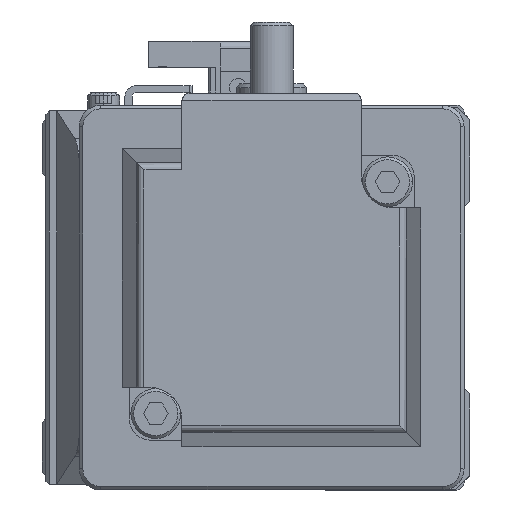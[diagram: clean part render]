
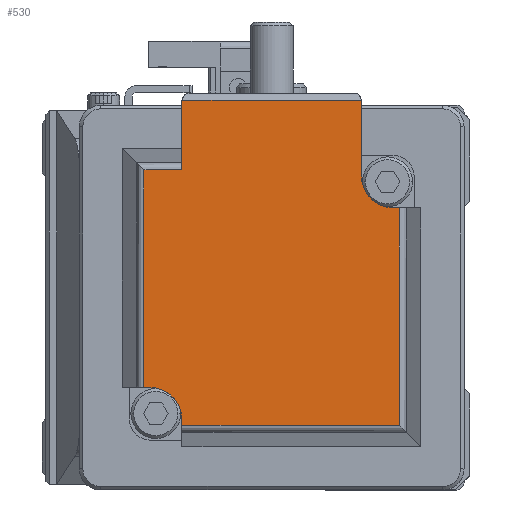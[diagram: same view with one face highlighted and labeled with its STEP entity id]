
A CAD part, left-side view. The second image highlights one B-rep face of the part: STEP entity #530.
In plain terms, the highlighted planar face has unit normal (-1, 0, 0) as drawn and (0, 1, 0) by its records, which use the part's own axes.
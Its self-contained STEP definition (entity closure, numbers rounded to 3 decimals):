
#20 = VECTOR ( 'NONE', #27901, 1000. ) ;
#530 = ADVANCED_FACE ( 'NONE', ( #7664 ), #28047, .F. ) ;
#793 = VERTEX_POINT ( 'NONE', #18563 ) ;
#1028 = VERTEX_POINT ( 'NONE', #17177 ) ;
#1162 = DIRECTION ( 'NONE',  ( 1., 0., 0. ) ) ;
#2157 = VECTOR ( 'NONE', #16192, 1000. ) ;
#2218 = VERTEX_POINT ( 'NONE', #26545 ) ;
#2480 = CARTESIAN_POINT ( 'NONE',  ( 17.929, 100.6, -12.6 ) ) ;
#2507 = EDGE_CURVE ( 'NONE', #1028, #15522, #8825, .T. ) ;
#2905 = VERTEX_POINT ( 'NONE', #10049 ) ;
#3003 = CARTESIAN_POINT ( 'NONE',  ( 12.6, 100.6, 25. ) ) ;
#3379 = ORIENTED_EDGE ( 'NONE', *, *, #11506, .F. ) ;
#3844 = CARTESIAN_POINT ( 'NONE',  ( -12.6, 100.6, -21. ) ) ;
#4163 = DIRECTION ( 'NONE',  ( 0., 1., 0. ) ) ;
#4998 = CARTESIAN_POINT ( 'NONE',  ( 27.7, 100.6, -12.6 ) ) ;
#6441 = LINE ( 'NONE', #14253, #20 ) ;
#6991 = AXIS2_PLACEMENT_3D ( 'NONE', #34294, #4163, #28910 ) ;
#7664 = FACE_OUTER_BOUND ( 'NONE', #12427, .T. ) ;
#8039 = VECTOR ( 'NONE', #32095, 1000. ) ;
#8825 = LINE ( 'NONE', #19212, #12719 ) ;
#9079 = DIRECTION ( 'NONE',  ( 0., 0., -1. ) ) ;
#9161 = ORIENTED_EDGE ( 'NONE', *, *, #21905, .F. ) ;
#9185 = CARTESIAN_POINT ( 'NONE',  ( 17.929, 100.6, 25. ) ) ;
#9370 = DIRECTION ( 'NONE',  ( 0., 0., 1. ) ) ;
#10049 = CARTESIAN_POINT ( 'NONE',  ( 12.6, 100.6, 17.1 ) ) ;
#10341 = DIRECTION ( 'NONE',  ( 1., 0., 0. ) ) ;
#10831 = CARTESIAN_POINT ( 'NONE',  ( -17.1, 100.6, -17.1 ) ) ;
#11506 = EDGE_CURVE ( 'NONE', #11993, #34310, #33896, .T. ) ;
#11629 = LINE ( 'NONE', #3844, #34335 ) ;
#11695 = ORIENTED_EDGE ( 'NONE', *, *, #32901, .F. ) ;
#11993 = VERTEX_POINT ( 'NONE', #4998 ) ;
#12427 = EDGE_LOOP ( 'NONE', ( #27410, #3379, #9161, #21349, #25086, #17284, #34416, #22413, #15417, #23145, #11695, #15529 ) ) ;
#12678 = VECTOR ( 'NONE', #1162, 1000. ) ;
#12719 = VECTOR ( 'NONE', #14090, 1000. ) ;
#13292 = CARTESIAN_POINT ( 'NONE',  ( 17.929, 100.6, -17.929 ) ) ;
#13701 = CARTESIAN_POINT ( 'NONE',  ( 27.7, 100.6, 12.6 ) ) ;
#14090 = DIRECTION ( 'NONE',  ( 0., 0., -1. ) ) ;
#14253 = CARTESIAN_POINT ( 'NONE',  ( 17.929, 100.6, 25. ) ) ;
#14281 = DIRECTION ( 'NONE',  ( 0., -1., 0. ) ) ;
#14304 = VECTOR ( 'NONE', #30158, 1000. ) ;
#14366 = VERTEX_POINT ( 'NONE', #22767 ) ;
#14423 = EDGE_CURVE ( 'NONE', #14366, #27064, #19950, .T. ) ;
#14713 = AXIS2_PLACEMENT_3D ( 'NONE', #10831, #21618, #27151 ) ;
#15222 = CARTESIAN_POINT ( 'NONE',  ( 17.929, 100.6, -17.929 ) ) ;
#15417 = ORIENTED_EDGE ( 'NONE', *, *, #2507, .F. ) ;
#15457 = CARTESIAN_POINT ( 'NONE',  ( 17.929, 100.6, -12.6 ) ) ;
#15522 = VERTEX_POINT ( 'NONE', #23724 ) ;
#15529 = ORIENTED_EDGE ( 'NONE', *, *, #27964, .F. ) ;
#15635 = DIRECTION ( 'NONE',  ( 0., 0., 1. ) ) ;
#16192 = DIRECTION ( 'NONE',  ( -1., 0., 0. ) ) ;
#16940 = VECTOR ( 'NONE', #30504, 1000. ) ;
#17141 = EDGE_CURVE ( 'NONE', #14366, #19164, #11629, .T. ) ;
#17177 = CARTESIAN_POINT ( 'NONE',  ( -17.929, 100.6, 17.929 ) ) ;
#17219 = EDGE_CURVE ( 'NONE', #15522, #2218, #31353, .T. ) ;
#17284 = ORIENTED_EDGE ( 'NONE', *, *, #17141, .T. ) ;
#17460 = EDGE_CURVE ( 'NONE', #28370, #1028, #27062, .T. ) ;
#17479 = VERTEX_POINT ( 'NONE', #2480 ) ;
#18563 = CARTESIAN_POINT ( 'NONE',  ( 17.1, 100.6, 12.6 ) ) ;
#19164 = VERTEX_POINT ( 'NONE', #19936 ) ;
#19212 = CARTESIAN_POINT ( 'NONE',  ( -17.929, 100.6, 25. ) ) ;
#19610 = CIRCLE ( 'NONE', #14713, 4.5 ) ;
#19749 = VECTOR ( 'NONE', #10341, 1000. ) ;
#19936 = CARTESIAN_POINT ( 'NONE',  ( -12.6, 100.6, -17.1 ) ) ;
#19950 = LINE ( 'NONE', #15222, #12678 ) ;
#21345 = CARTESIAN_POINT ( 'NONE',  ( 17.929, 100.6, 17.929 ) ) ;
#21349 = ORIENTED_EDGE ( 'NONE', *, *, #35138, .F. ) ;
#21618 = DIRECTION ( 'NONE',  ( 0., -1., 0. ) ) ;
#21905 = EDGE_CURVE ( 'NONE', #17479, #11993, #29089, .T. ) ;
#22413 = ORIENTED_EDGE ( 'NONE', *, *, #17219, .F. ) ;
#22767 = CARTESIAN_POINT ( 'NONE',  ( -12.6, 100.6, -17.929 ) ) ;
#23145 = ORIENTED_EDGE ( 'NONE', *, *, #17460, .F. ) ;
#23724 = CARTESIAN_POINT ( 'NONE',  ( -17.929, 100.6, -12.6 ) ) ;
#24631 = LINE ( 'NONE', #3003, #16940 ) ;
#25086 = ORIENTED_EDGE ( 'NONE', *, *, #14423, .F. ) ;
#26488 = AXIS2_PLACEMENT_3D ( 'NONE', #9185, #14281, #9079 ) ;
#26545 = CARTESIAN_POINT ( 'NONE',  ( -17.1, 100.6, -12.6 ) ) ;
#26791 = CARTESIAN_POINT ( 'NONE',  ( 17.929, 100.6, -12.6 ) ) ;
#26884 = CARTESIAN_POINT ( 'NONE',  ( 27.7, 100.6, 25. ) ) ;
#27062 = LINE ( 'NONE', #21345, #2157 ) ;
#27064 = VERTEX_POINT ( 'NONE', #13292 ) ;
#27151 = DIRECTION ( 'NONE',  ( 0., 0., -1. ) ) ;
#27410 = ORIENTED_EDGE ( 'NONE', *, *, #33787, .F. ) ;
#27901 = DIRECTION ( 'NONE',  ( 0., 0., 1. ) ) ;
#27964 = EDGE_CURVE ( 'NONE', #793, #2905, #29765, .T. ) ;
#28047 = PLANE ( 'NONE',  #26488 ) ;
#28370 = VERTEX_POINT ( 'NONE', #29913 ) ;
#28910 = DIRECTION ( 'NONE',  ( 0., 0., -1. ) ) ;
#29089 = LINE ( 'NONE', #15457, #8039 ) ;
#29765 = CIRCLE ( 'NONE', #6991, 4.5 ) ;
#29818 = CARTESIAN_POINT ( 'NONE',  ( 17.929, 100.6, 12.6 ) ) ;
#29913 = CARTESIAN_POINT ( 'NONE',  ( 12.6, 100.6, 17.929 ) ) ;
#30158 = DIRECTION ( 'NONE',  ( -1., 0., 0. ) ) ;
#30504 = DIRECTION ( 'NONE',  ( 0., 0., 1. ) ) ;
#30913 = VECTOR ( 'NONE', #15635, 1000. ) ;
#30966 = EDGE_CURVE ( 'NONE', #19164, #2218, #19610, .T. ) ;
#31353 = LINE ( 'NONE', #26791, #19749 ) ;
#32095 = DIRECTION ( 'NONE',  ( 1., 0., 0. ) ) ;
#32901 = EDGE_CURVE ( 'NONE', #2905, #28370, #24631, .T. ) ;
#33787 = EDGE_CURVE ( 'NONE', #34310, #793, #34027, .T. ) ;
#33896 = LINE ( 'NONE', #26884, #30913 ) ;
#34027 = LINE ( 'NONE', #29818, #14304 ) ;
#34294 = CARTESIAN_POINT ( 'NONE',  ( 17.1, 100.6, 17.1 ) ) ;
#34310 = VERTEX_POINT ( 'NONE', #13701 ) ;
#34335 = VECTOR ( 'NONE', #9370, 1000. ) ;
#34416 = ORIENTED_EDGE ( 'NONE', *, *, #30966, .T. ) ;
#35138 = EDGE_CURVE ( 'NONE', #27064, #17479, #6441, .T. ) ;
